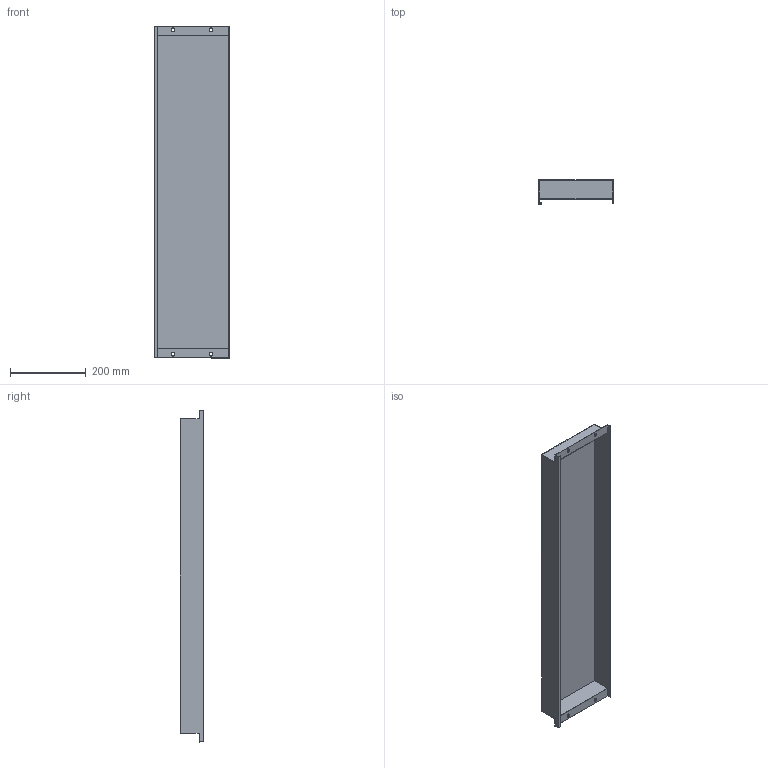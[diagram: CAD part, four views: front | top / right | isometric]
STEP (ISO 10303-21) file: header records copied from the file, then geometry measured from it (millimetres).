
FILE_DESCRIPTION (( 'STEP AP214' ), '1' );
FILE_NAME ('FO-00-PVSU-020-100 Ïëàñòðîí âíóòðåííèé óãëóáëåííûé 200õ1000õ50.STEP', '2025-08-26T11:53:03', ( '' ), ( '' ), 'SwSTEP 2.0', 'SolidWorks 2023', '' );
FILE_SCHEMA (( 'AUTOMOTIVE_DESIGN' ));
Length unit declared in the file: millimetre
Products named in the file (1): FO-00-PVSU-020-100 Пластрон внутренний углубленный 200х1000х50
Bounding box: 198 x 62.5 x 879 mm (x, y, z)
Volume: 419511.9 mm3; surface area: 602548.2 mm2
Topology: 1 solids, 1 shells, 42 faces, 120 edges, 80 vertices
Faces by surface type: plane 30, cylinder 12
Entity records: 1407 total; most frequent: CARTESIAN_POINT 243, ORIENTED_EDGE 240, DIRECTION 230, EDGE_CURVE 120, LINE 96, VECTOR 96, VERTEX_POINT 80, AXIS2_PLACEMENT_3D 67
